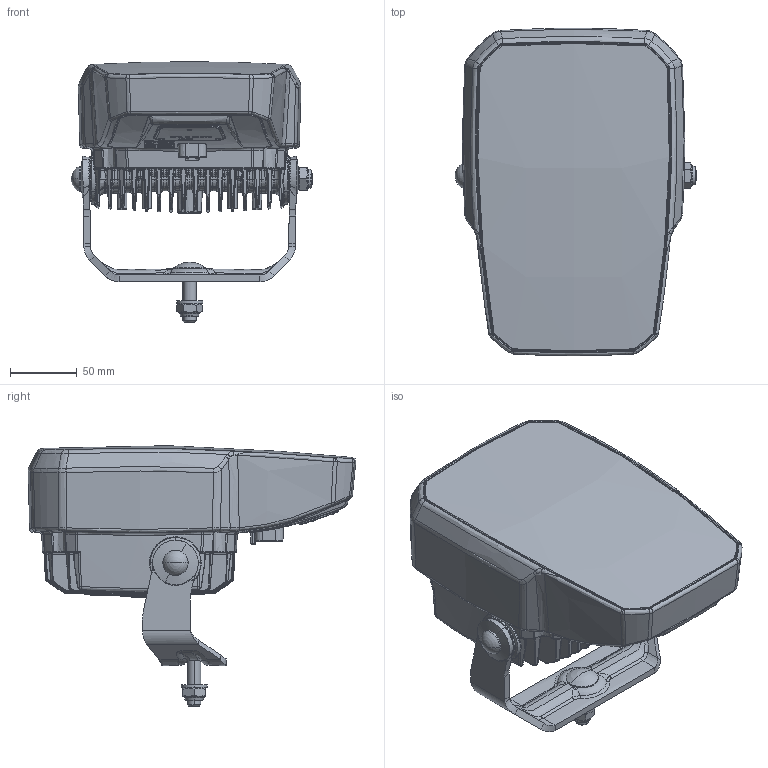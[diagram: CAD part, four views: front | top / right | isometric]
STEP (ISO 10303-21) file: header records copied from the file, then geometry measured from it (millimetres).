
FILE_DESCRIPTION(('CATIA V5 STEP Exchange','CAx-IF Rec.Pracs.--- Model Styling and Organization---1.5--- 2016-08-15','CAx-IF Rec.Pracs.---Supplemental Geometry---1.0---2011-11-01','CAx-IF Rec.Pracs.--- Composite Materials ---1.1---2010-07-15'),'2;1');
FILE_NAME('E:\tmp\ddx\2010591\3D_data_LED_combination_headlamp_C140_LED_vertical_1EE 996 374-00.stp','2022-01-14T14:38:48+00:00',('none'),('none'),'CATIA Version 5-6 Release 2020 SP3 HF9','CATIA V5 STEP AP214 Edition 3 v2','none');
FILE_SCHEMA(('AUTOMOTIVE_DESIGN { 1 0 10303 214 3 1 1 1 }'));
Length unit declared in the file: millimetre
Products named in the file (1): 10001627307_D10_001
Bounding box: 181.12 x 245.65 x 195.31 mm (x, y, z)
Volume: 2704501.5 mm3; surface area: 364073.2 mm2
Topology: 7 solids, 13 shells, 7024 faces, 17585 edges, 10451 vertices
Faces by surface type: bspline 3563, plane 1159, extrusion 837, cylinder 635, cone 339, torus 261, sphere 222, revolution 8
Entity records: 404353 total; most frequent: CARTESIAN_POINT 278628, ORIENTED_EDGE 34610, EDGE_CURVE 17305, B_SPLINE_CURVE_WITH_KNOTS 12961, VERTEX_POINT 10451, DIRECTION 10162, EDGE_LOOP 7216, ADVANCED_FACE 7024
